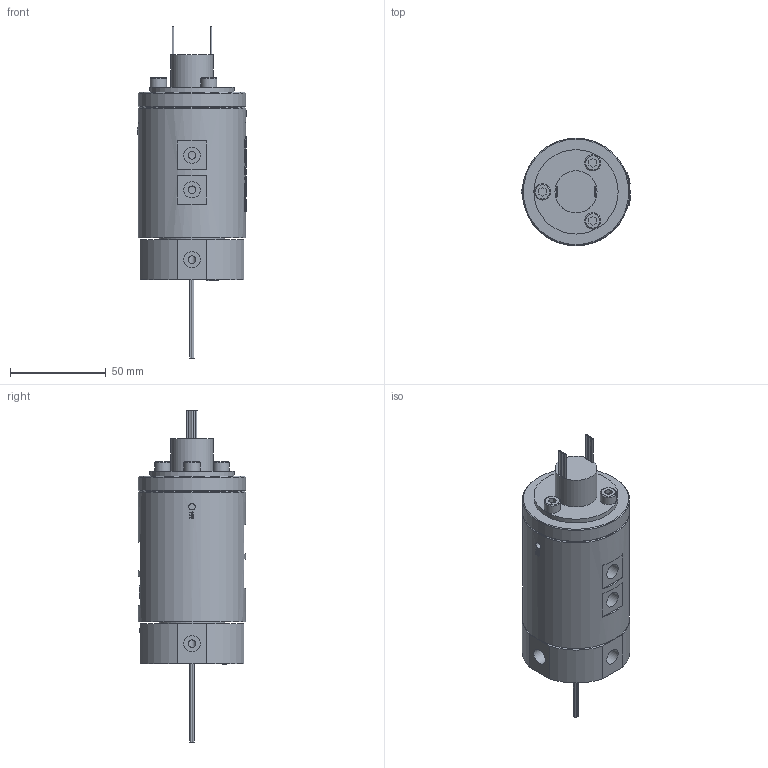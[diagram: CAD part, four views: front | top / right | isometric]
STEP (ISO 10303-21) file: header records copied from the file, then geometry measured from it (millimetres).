
FILE_DESCRIPTION(/* description */ (''),/* implementation_level */ '2;1');
FILE_NAME(/* name */ 'HQ0401-12M.stp',/* time_stamp */ '2025-02-14T11:53:25+08:00',/* author */ (''),/* organization */ (''),/* preprocessor_version */ 'ST-DEVELOPER v16.7',/* originating_system */ 'SIEMENS PLM Software NX 12.0',/* authorisation */ '');
FILE_SCHEMA (('AUTOMOTIVE_DESIGN { 1 0 10303 214 3 1 1 1 }'));
Length unit declared in the file: millimetre
Products named in the file (1): HX0540E8A2D8nggv
Bounding box: 57 x 56 x 173.3 mm (x, y, z)
Volume: 239582.2 mm3; surface area: 37230.8 mm2
Topology: 1 solids, 4 shells, 1001 faces, 2629 edges, 1762 vertices
Faces by surface type: plane 480, extrusion 391, cylinder 90, bspline 30, cone 7, torus 3
Full cylindrical faces by diameter (mm): 0.8 x16, 3.4 x6, 4 x12, 4.1 x4, 4.2 x4, 5 x3, 5.5 x3, 7.8 x1, 8 x1, 8.5 x11, 22 x1, 34 x1, 44 x1, 56 x2
Entity records: 36508 total; most frequent: CARTESIAN_POINT 15219, ORIENTED_EDGE 4996, DIRECTION 2806, EDGE_CURVE 2498, B_SPLINE_CURVE_WITH_KNOTS 1945, VERTEX_POINT 1719, EDGE_LOOP 1211, VECTOR 1020
